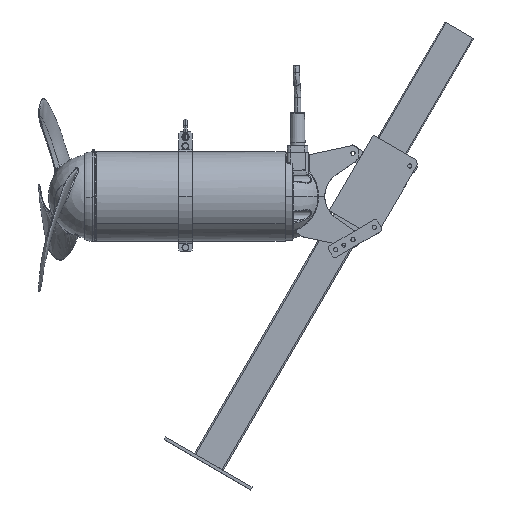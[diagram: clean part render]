
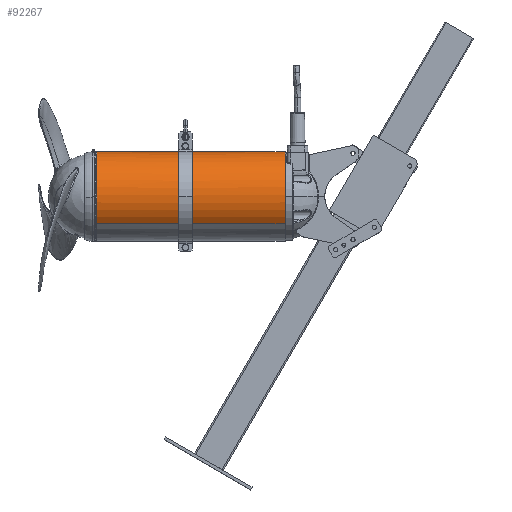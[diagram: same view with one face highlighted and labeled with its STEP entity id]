
A CAD part, top view. The second image highlights one B-rep face of the part: STEP entity #92267.
In plain terms, the highlighted cylindrical face has radius 134 mm (diameter 268 mm), a partial arc.
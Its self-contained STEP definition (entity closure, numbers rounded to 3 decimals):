
#1716 = CARTESIAN_POINT ( 'NONE',  ( -616.446, -82.096, 105.906 ) ) ;
#2752 = LINE ( 'NONE', #171659, #88117 ) ;
#5023 = VECTOR ( 'NONE', #15381, 1000. ) ;
#5532 = EDGE_LOOP ( 'NONE', ( #111159, #29898, #21997, #93384, #67940, #17581, #66925, #37320, #154189, #58853, #96085, #76905 ) ) ;
#7277 = CIRCLE ( 'NONE', #106097, 134. ) ;
#8304 = CARTESIAN_POINT ( 'NONE',  ( -291.6, 133.971, -2.785 ) ) ;
#10829 = CARTESIAN_POINT ( 'NONE',  ( -271.6, 0., 0. ) ) ;
#11508 = AXIS2_PLACEMENT_3D ( 'NONE', #27038, #122447, #40767 ) ;
#12531 = CARTESIAN_POINT ( 'NONE',  ( -311.6, 0., 0. ) ) ;
#13831 = CARTESIAN_POINT ( 'NONE',  ( -558.2, 0., 0. ) ) ;
#15381 = DIRECTION ( 'NONE',  ( -1., 0., 0. ) ) ;
#16994 = VERTEX_POINT ( 'NONE', #110292 ) ;
#17581 = ORIENTED_EDGE ( 'NONE', *, *, #29129, .T. ) ;
#21997 = ORIENTED_EDGE ( 'NONE', *, *, #26825, .F. ) ;
#23071 = CARTESIAN_POINT ( 'NONE',  ( -311.6, 133.971, -2.785 ) ) ;
#23148 = CIRCLE ( 'NONE', #167582, 134. ) ;
#24541 = DIRECTION ( 'NONE',  ( 0., 0., -1. ) ) ;
#26249 = DIRECTION ( 'NONE',  ( 0., 0., -1. ) ) ;
#26825 = EDGE_CURVE ( 'NONE', #153990, #16994, #7277, .T. ) ;
#27038 = CARTESIAN_POINT ( 'NONE',  ( -311.6, 0., 0. ) ) ;
#27204 = VERTEX_POINT ( 'NONE', #121709 ) ;
#27549 = DIRECTION ( 'NONE',  ( 0., -0.613, 0.79 ) ) ;
#29129 = EDGE_CURVE ( 'NONE', #164911, #27204, #139668, .T. ) ;
#29898 = ORIENTED_EDGE ( 'NONE', *, *, #119275, .T. ) ;
#31103 = VERTEX_POINT ( 'NONE', #64585 ) ;
#31492 = EDGE_CURVE ( 'NONE', #162011, #27204, #35473, .T. ) ;
#32315 = CARTESIAN_POINT ( 'NONE',  ( -616.446, 82.096, -105.906 ) ) ;
#35473 = CIRCLE ( 'NONE', #91453, 134. ) ;
#37258 = EDGE_CURVE ( 'NONE', #115085, #130077, #113408, .T. ) ;
#37320 = ORIENTED_EDGE ( 'NONE', *, *, #108054, .F. ) ;
#40767 = DIRECTION ( 'NONE',  ( 0., 0., -1. ) ) ;
#42345 = AXIS2_PLACEMENT_3D ( 'NONE', #155423, #73805, #169137 ) ;
#45161 = CARTESIAN_POINT ( 'NONE',  ( 7.9, 82.096, -105.906 ) ) ;
#47215 = CYLINDRICAL_SURFACE ( 'NONE', #55301, 134. ) ;
#48594 = CARTESIAN_POINT ( 'NONE',  ( -271.6, 133.971, 2.785 ) ) ;
#51698 = VERTEX_POINT ( 'NONE', #48594 ) ;
#55301 = AXIS2_PLACEMENT_3D ( 'NONE', #160497, #63951, #65678 ) ;
#57966 = DIRECTION ( 'NONE',  ( -1., 0., 0. ) ) ;
#58053 = CARTESIAN_POINT ( 'NONE',  ( -311.6, 133.971, 2.785 ) ) ;
#58853 = ORIENTED_EDGE ( 'NONE', *, *, #132060, .F. ) ;
#63951 = DIRECTION ( 'NONE',  ( -1., 0., 0. ) ) ;
#64585 = CARTESIAN_POINT ( 'NONE',  ( -271.6, -82.096, 105.906 ) ) ;
#65678 = DIRECTION ( 'NONE',  ( 0., -0.613, 0.79 ) ) ;
#66925 = ORIENTED_EDGE ( 'NONE', *, *, #31492, .F. ) ;
#67940 = ORIENTED_EDGE ( 'NONE', *, *, #175417, .T. ) ;
#72299 = DIRECTION ( 'NONE',  ( -1., 0., 0. ) ) ;
#73805 = DIRECTION ( 'NONE',  ( -1., 0., 0. ) ) ;
#75155 = CARTESIAN_POINT ( 'NONE',  ( -291.6, 133.971, 2.785 ) ) ;
#75469 = EDGE_CURVE ( 'NONE', #31103, #51698, #92737, .T. ) ;
#76305 = DIRECTION ( 'NONE',  ( -1., 0., 0. ) ) ;
#76905 = ORIENTED_EDGE ( 'NONE', *, *, #120912, .F. ) ;
#82205 = VERTEX_POINT ( 'NONE', #45161 ) ;
#88117 = VECTOR ( 'NONE', #76305, 1000. ) ;
#91453 = AXIS2_PLACEMENT_3D ( 'NONE', #13831, #109245, #27549 ) ;
#92118 = DIRECTION ( 'NONE',  ( -1., 0., 0. ) ) ;
#92267 = ADVANCED_FACE ( 'NONE', ( #132591 ), #47215, .T. ) ;
#92737 = CIRCLE ( 'NONE', #42345, 134. ) ;
#93102 = VECTOR ( 'NONE', #156789, 1000. ) ;
#93384 = ORIENTED_EDGE ( 'NONE', *, *, #112454, .F. ) ;
#94341 = CARTESIAN_POINT ( 'NONE',  ( -311.6, 82.096, -105.906 ) ) ;
#96085 = ORIENTED_EDGE ( 'NONE', *, *, #75469, .F. ) ;
#99327 = CARTESIAN_POINT ( 'NONE',  ( -311.6, -82.096, 105.906 ) ) ;
#103389 = VECTOR ( 'NONE', #92118, 1000. ) ;
#103440 = VECTOR ( 'NONE', #57966, 1000. ) ;
#103678 = DIRECTION ( 'NONE',  ( 1., 0., 0. ) ) ;
#106097 = AXIS2_PLACEMENT_3D ( 'NONE', #10829, #106226, #24541 ) ;
#106226 = DIRECTION ( 'NONE',  ( -1., 0., 0. ) ) ;
#107929 = DIRECTION ( 'NONE',  ( -1., 0., 0. ) ) ;
#108054 = EDGE_CURVE ( 'NONE', #115085, #162011, #2752, .T. ) ;
#109245 = DIRECTION ( 'NONE',  ( -1., 0., 0. ) ) ;
#109497 = LINE ( 'NONE', #1716, #5023 ) ;
#110292 = CARTESIAN_POINT ( 'NONE',  ( -271.6, 82.096, -105.906 ) ) ;
#111159 = ORIENTED_EDGE ( 'NONE', *, *, #170708, .T. ) ;
#112233 = LINE ( 'NONE', #75155, #93102 ) ;
#112454 = EDGE_CURVE ( 'NONE', #121293, #153990, #129999, .T. ) ;
#113408 = CIRCLE ( 'NONE', #158879, 134. ) ;
#113752 = CARTESIAN_POINT ( 'NONE',  ( -271.6, 133.971, -2.785 ) ) ;
#115085 = VERTEX_POINT ( 'NONE', #99327 ) ;
#119275 = EDGE_CURVE ( 'NONE', #82205, #16994, #175895, .T. ) ;
#120912 = EDGE_CURVE ( 'NONE', #125543, #31103, #109497, .T. ) ;
#121293 = VERTEX_POINT ( 'NONE', #23071 ) ;
#121709 = CARTESIAN_POINT ( 'NONE',  ( -558.2, 82.096, -105.906 ) ) ;
#122447 = DIRECTION ( 'NONE',  ( -1., 0., 0. ) ) ;
#125543 = VERTEX_POINT ( 'NONE', #140819 ) ;
#125708 = VECTOR ( 'NONE', #103678, 1000. ) ;
#129999 = LINE ( 'NONE', #8304, #125708 ) ;
#130077 = VERTEX_POINT ( 'NONE', #58053 ) ;
#132060 = EDGE_CURVE ( 'NONE', #51698, #130077, #112233, .T. ) ;
#132591 = FACE_OUTER_BOUND ( 'NONE', #5532, .T. ) ;
#139668 = LINE ( 'NONE', #32315, #103440 ) ;
#140819 = CARTESIAN_POINT ( 'NONE',  ( 7.9, -82.096, 105.906 ) ) ;
#149672 = CIRCLE ( 'NONE', #11508, 134. ) ;
#153920 = CARTESIAN_POINT ( 'NONE',  ( 7.9, 0., 0. ) ) ;
#153990 = VERTEX_POINT ( 'NONE', #113752 ) ;
#154189 = ORIENTED_EDGE ( 'NONE', *, *, #37258, .T. ) ;
#155423 = CARTESIAN_POINT ( 'NONE',  ( -271.6, 0., 0. ) ) ;
#156789 = DIRECTION ( 'NONE',  ( -1., 0., 0. ) ) ;
#158879 = AXIS2_PLACEMENT_3D ( 'NONE', #12531, #107929, #26249 ) ;
#160497 = CARTESIAN_POINT ( 'NONE',  ( -616.446, 0., 0. ) ) ;
#162011 = VERTEX_POINT ( 'NONE', #175993 ) ;
#164911 = VERTEX_POINT ( 'NONE', #94341 ) ;
#167582 = AXIS2_PLACEMENT_3D ( 'NONE', #153920, #72299, #167629 ) ;
#167629 = DIRECTION ( 'NONE',  ( 0., -0.613, 0.79 ) ) ;
#169137 = DIRECTION ( 'NONE',  ( 0., 0., -1. ) ) ;
#170708 = EDGE_CURVE ( 'NONE', #125543, #82205, #23148, .T. ) ;
#171659 = CARTESIAN_POINT ( 'NONE',  ( -616.446, -82.096, 105.906 ) ) ;
#173782 = CARTESIAN_POINT ( 'NONE',  ( -616.446, 82.096, -105.906 ) ) ;
#175417 = EDGE_CURVE ( 'NONE', #121293, #164911, #149672, .T. ) ;
#175895 = LINE ( 'NONE', #173782, #103389 ) ;
#175993 = CARTESIAN_POINT ( 'NONE',  ( -558.2, -82.096, 105.906 ) ) ;
